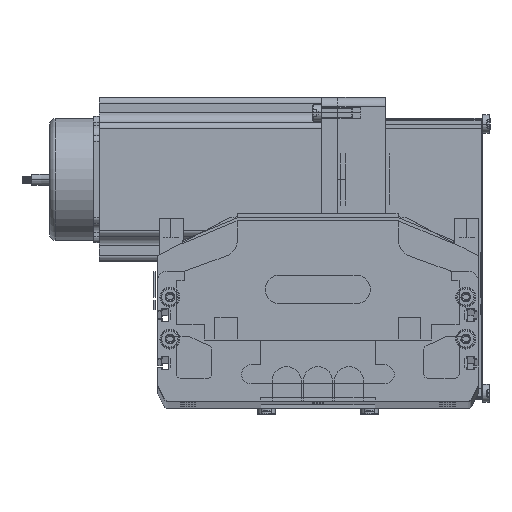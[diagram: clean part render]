
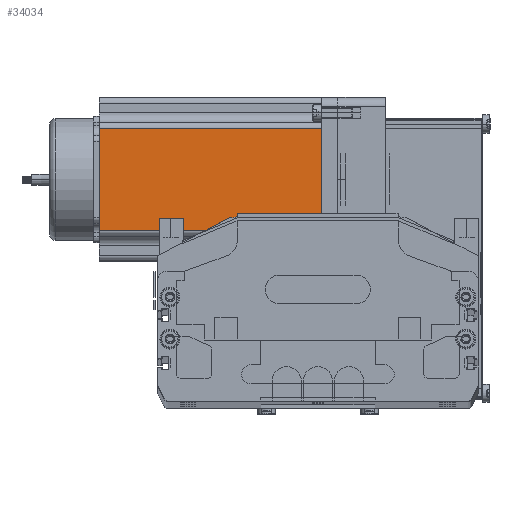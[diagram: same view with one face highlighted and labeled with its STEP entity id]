
A CAD part, top view. The second image highlights one B-rep face of the part: STEP entity #34034.
In plain terms, the highlighted planar face has unit normal (0, 0, 1) as drawn and (0, -1, 0) by its records, which use the part's own axes.
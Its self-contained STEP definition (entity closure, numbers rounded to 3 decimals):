
#33849 = VERTEX_POINT ( 'NONE', #58219 ) ;
#33854 = EDGE_CURVE ( 'NONE', #33849, #34077, #58042, .T. ) ;
#34033 = VERTEX_POINT ( 'NONE', #58233 ) ;
#34034 = ADVANCED_FACE ( 'NONE', ( #58347 ), #58346, .F. ) ;
#34035 = VERTEX_POINT ( 'NONE', #58344 ) ;
#34036 = ORIENTED_EDGE ( 'NONE', *, *, #34037, .T. ) ;
#34037 = EDGE_CURVE ( 'NONE', #34035, #34033, #58325, .T. ) ;
#34038 = EDGE_CURVE ( 'NONE', #34077, #34035, #58371, .T. ) ;
#34042 = ORIENTED_EDGE ( 'NONE', *, *, #34045, .F. ) ;
#34045 = EDGE_CURVE ( 'NONE', #33849, #34033, #58321, .T. ) ;
#34054 = ORIENTED_EDGE ( 'NONE', *, *, #34038, .T. ) ;
#34065 = EDGE_LOOP ( 'NONE', ( #34054, #34036, #34042, #34073 ) ) ;
#34073 = ORIENTED_EDGE ( 'NONE', *, *, #33854, .T. ) ;
#34077 = VERTEX_POINT ( 'NONE', #58384 ) ;
#58037 = DIRECTION ( 'NONE',  ( 0., 0., -1. ) ) ;
#58039 = VECTOR ( 'NONE', #58037, 1000. ) ;
#58040 = CARTESIAN_POINT ( 'NONE',  ( 16.16, 0., 116.5 ) ) ;
#58042 = LINE ( 'NONE', #58040, #58039 ) ;
#58219 = CARTESIAN_POINT ( 'NONE',  ( 16.16, 0., 116.5 ) ) ;
#58233 = CARTESIAN_POINT ( 'NONE',  ( 69.74, 0., 116.5 ) ) ;
#58294 = DIRECTION ( 'NONE',  ( 1., 0., 0. ) ) ;
#58295 = CARTESIAN_POINT ( 'NONE',  ( 0., 0., 116.5 ) ) ;
#58304 = AXIS2_PLACEMENT_3D ( 'NONE', #58324, #58323, #58322 ) ;
#58321 = LINE ( 'NONE', #58295, #58326 ) ;
#58322 = DIRECTION ( 'NONE',  ( 0., 0., 1. ) ) ;
#58323 = DIRECTION ( 'NONE',  ( 0., 1., 0. ) ) ;
#58324 = CARTESIAN_POINT ( 'NONE',  ( 0., 0., 116.5 ) ) ;
#58325 = LINE ( 'NONE', #58359, #58358 ) ;
#58326 = VECTOR ( 'NONE', #58294, 1000. ) ;
#58329 = DIRECTION ( 'NONE',  ( 1., 0., 0. ) ) ;
#58330 = VECTOR ( 'NONE', #58329, 1000. ) ;
#58331 = CARTESIAN_POINT ( 'NONE',  ( 0., 0., 0. ) ) ;
#58344 = CARTESIAN_POINT ( 'NONE',  ( 69.74, 0., 0. ) ) ;
#58346 = PLANE ( 'NONE',  #58304 ) ;
#58347 = FACE_OUTER_BOUND ( 'NONE', #34065, .T. ) ;
#58357 = DIRECTION ( 'NONE',  ( 0., 0., 1. ) ) ;
#58358 = VECTOR ( 'NONE', #58357, 1000. ) ;
#58359 = CARTESIAN_POINT ( 'NONE',  ( 69.74, 0., 116.5 ) ) ;
#58371 = LINE ( 'NONE', #58331, #58330 ) ;
#58384 = CARTESIAN_POINT ( 'NONE',  ( 16.16, 0., 0. ) ) ;
